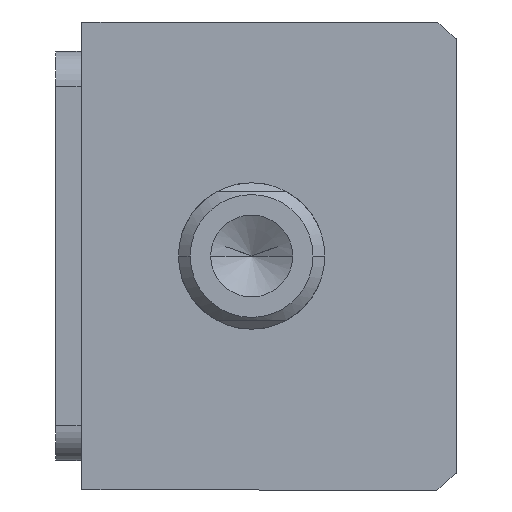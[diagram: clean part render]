
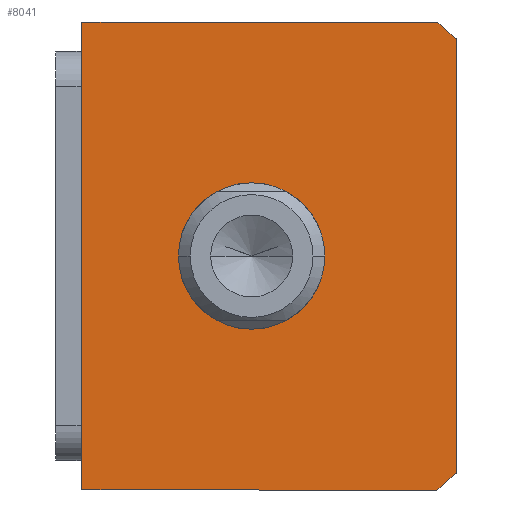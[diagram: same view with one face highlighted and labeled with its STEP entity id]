
A CAD part, front view. The second image highlights one B-rep face of the part: STEP entity #8041.
In plain terms, the highlighted planar face has unit normal (0, -1, 0) as drawn and (0, 0, -1) by its records, which use the part's own axes.
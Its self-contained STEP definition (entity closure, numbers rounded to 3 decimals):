
#133 = DIRECTION ( 'NONE',  ( 1., 0., 0. ) ) ;
#232 = DIRECTION ( 'NONE',  ( 0., 0., 1. ) ) ;
#289 = VECTOR ( 'NONE', #909, 1000. ) ;
#460 = CARTESIAN_POINT ( 'NONE',  ( 0., 3., 0. ) ) ;
#563 = LINE ( 'NONE', #9420, #289 ) ;
#826 = CIRCLE ( 'NONE', #8469, 51. ) ;
#909 = DIRECTION ( 'NONE',  ( 0., -1., 0. ) ) ;
#1302 = DIRECTION ( 'NONE',  ( 1., 0., 0. ) ) ;
#1366 = CIRCLE ( 'NONE', #4053, 12.5 ) ;
#1381 = EDGE_CURVE ( 'NONE', #7693, #6238, #5204, .T. ) ;
#1410 = CARTESIAN_POINT ( 'NONE',  ( 40., 32., 0. ) ) ;
#1509 = CARTESIAN_POINT ( 'NONE',  ( 0., 3., 0. ) ) ;
#1777 = EDGE_LOOP ( 'NONE', ( #7535, #4281 ) ) ;
#1899 = ORIENTED_EDGE ( 'NONE', *, *, #6053, .F. ) ;
#1920 = CIRCLE ( 'NONE', #8406, 12.5 ) ;
#2006 = CARTESIAN_POINT ( 'NONE',  ( 40., -28.639, 0. ) ) ;
#2067 = EDGE_CURVE ( 'NONE', #9551, #2824, #1920, .T. ) ;
#2241 = DIRECTION ( 'NONE',  ( 0., 1., 0. ) ) ;
#2341 = DIRECTION ( 'NONE',  ( 1., 0., 0. ) ) ;
#2418 = FACE_OUTER_BOUND ( 'NONE', #5286, .T. ) ;
#2489 = CARTESIAN_POINT ( 'NONE',  ( 37.094, -32., 0. ) ) ;
#2569 = VERTEX_POINT ( 'NONE', #8825 ) ;
#2726 = CARTESIAN_POINT ( 'NONE',  ( 0., 0., 0. ) ) ;
#2824 = VERTEX_POINT ( 'NONE', #5772 ) ;
#3469 = CARTESIAN_POINT ( 'NONE',  ( 0., 3., 0. ) ) ;
#3959 = VECTOR ( 'NONE', #10654, 1000. ) ;
#4037 = EDGE_CURVE ( 'NONE', #2824, #9551, #1366, .T. ) ;
#4053 = AXIS2_PLACEMENT_3D ( 'NONE', #1509, #7316, #2341 ) ;
#4113 = FACE_BOUND ( 'NONE', #1777, .T. ) ;
#4238 = LINE ( 'NONE', #6440, #4485 ) ;
#4258 = CARTESIAN_POINT ( 'NONE',  ( 40., 32., 0. ) ) ;
#4277 = VERTEX_POINT ( 'NONE', #5041 ) ;
#4281 = ORIENTED_EDGE ( 'NONE', *, *, #2067, .T. ) ;
#4289 = DIRECTION ( 'NONE',  ( 1., 0., 0. ) ) ;
#4402 = PLANE ( 'NONE',  #7037 ) ;
#4485 = VECTOR ( 'NONE', #9764, 1000. ) ;
#4890 = VERTEX_POINT ( 'NONE', #6866 ) ;
#5041 = CARTESIAN_POINT ( 'NONE',  ( -40., -28.639, 0. ) ) ;
#5123 = DIRECTION ( 'NONE',  ( 0., 0., 1. ) ) ;
#5204 = CIRCLE ( 'NONE', #6396, 51. ) ;
#5263 = LINE ( 'NONE', #1410, #9406 ) ;
#5286 = EDGE_LOOP ( 'NONE', ( #1899, #9313, #6465, #6216, #9900, #6991 ) ) ;
#5720 = CARTESIAN_POINT ( 'NONE',  ( -12.5, 3., 0. ) ) ;
#5772 = CARTESIAN_POINT ( 'NONE',  ( 12.5, 3., 0. ) ) ;
#6053 = EDGE_CURVE ( 'NONE', #4277, #2569, #826, .T. ) ;
#6071 = VERTEX_POINT ( 'NONE', #4258 ) ;
#6076 = DIRECTION ( 'NONE',  ( 1., 0., 0. ) ) ;
#6216 = ORIENTED_EDGE ( 'NONE', *, *, #8290, .F. ) ;
#6238 = VERTEX_POINT ( 'NONE', #2006 ) ;
#6292 = DIRECTION ( 'NONE',  ( 0., 0., 1. ) ) ;
#6396 = AXIS2_PLACEMENT_3D ( 'NONE', #460, #6292, #1302 ) ;
#6440 = CARTESIAN_POINT ( 'NONE',  ( -40., 32., 0. ) ) ;
#6465 = ORIENTED_EDGE ( 'NONE', *, *, #7515, .F. ) ;
#6866 = CARTESIAN_POINT ( 'NONE',  ( -40., 32., 0. ) ) ;
#6991 = ORIENTED_EDGE ( 'NONE', *, *, #10093, .F. ) ;
#7037 = AXIS2_PLACEMENT_3D ( 'NONE', #2726, #232, #6076 ) ;
#7316 = DIRECTION ( 'NONE',  ( 0., 0., 1. ) ) ;
#7515 = EDGE_CURVE ( 'NONE', #6071, #4890, #4238, .T. ) ;
#7535 = ORIENTED_EDGE ( 'NONE', *, *, #4037, .T. ) ;
#7693 = VERTEX_POINT ( 'NONE', #2489 ) ;
#8041 = ADVANCED_FACE ( 'NONE', ( #4113, #2418 ), #4402, .F. ) ;
#8290 = EDGE_CURVE ( 'NONE', #6238, #6071, #5263, .T. ) ;
#8406 = AXIS2_PLACEMENT_3D ( 'NONE', #10081, #5123, #133 ) ;
#8469 = AXIS2_PLACEMENT_3D ( 'NONE', #3469, #9243, #4289 ) ;
#8825 = CARTESIAN_POINT ( 'NONE',  ( -37.094, -32., 0. ) ) ;
#9171 = EDGE_CURVE ( 'NONE', #4890, #4277, #563, .T. ) ;
#9243 = DIRECTION ( 'NONE',  ( 0., 0., 1. ) ) ;
#9313 = ORIENTED_EDGE ( 'NONE', *, *, #9171, .F. ) ;
#9406 = VECTOR ( 'NONE', #2241, 1000. ) ;
#9420 = CARTESIAN_POINT ( 'NONE',  ( -40., 32., 0. ) ) ;
#9551 = VERTEX_POINT ( 'NONE', #5720 ) ;
#9764 = DIRECTION ( 'NONE',  ( -1., 0., 0. ) ) ;
#9900 = ORIENTED_EDGE ( 'NONE', *, *, #1381, .F. ) ;
#10081 = CARTESIAN_POINT ( 'NONE',  ( 0., 3., 0. ) ) ;
#10093 = EDGE_CURVE ( 'NONE', #2569, #7693, #10530, .T. ) ;
#10530 = LINE ( 'NONE', #10592, #3959 ) ;
#10592 = CARTESIAN_POINT ( 'NONE',  ( -40., -32., 0. ) ) ;
#10654 = DIRECTION ( 'NONE',  ( 1., 0., 0. ) ) ;
